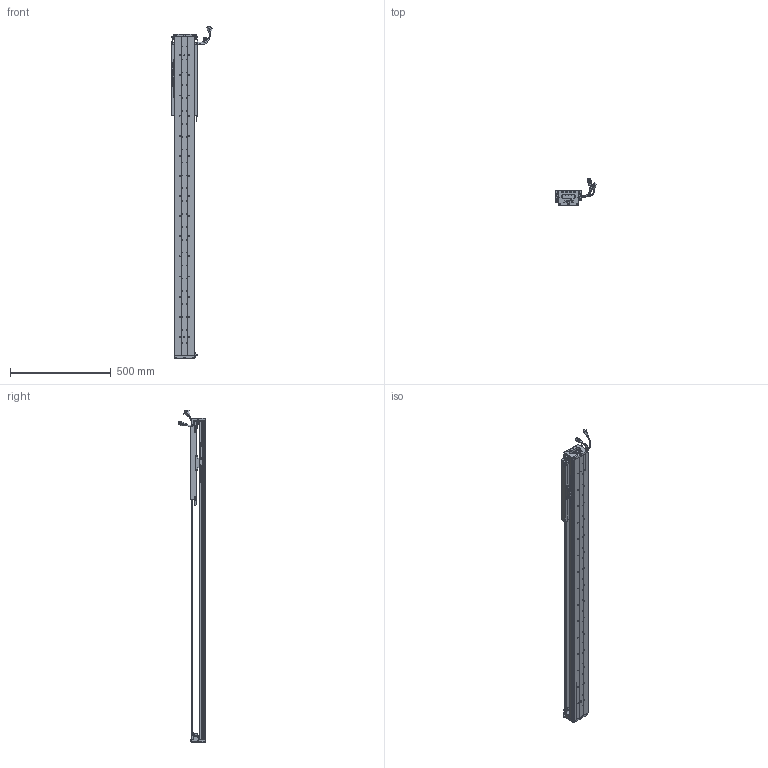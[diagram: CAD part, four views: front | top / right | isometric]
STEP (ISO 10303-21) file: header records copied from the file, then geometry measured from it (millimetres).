
FILE_DESCRIPTION (( 'STEP AP203' ), '1' );
FILE_NAME ('Z5-RY100D-1-L500-B-K.SLDASM_1150.step', '2021-05-17T03:33:11', ( '盈信电脑' ), ( '东莞市道滘镇水果街19号' ), 'SwSTEP 2.0', 'SolidWorks 2016', '' );
FILE_SCHEMA (( 'CONFIG_CONTROL_DESIGN' ));
Length unit declared in the file: millimetre
Products named in the file (36): Z-100詩湍傷裔啣; Z5-RY100D-500-倰第菁釱_1150; SCREW-M1.6-1; HOLDER0; COVER; SCREW-M1.6-2; Z-RY100D詩湍奻揤裔; COVER-Part-1; Z-RY100D覜茼んえ; Z-RY100D詩湍狟揤裔; HARNESS; 100-Z-臏賑輸盄裔(21遴); 080黍杅芛假蚾釱21遴; Z5-RY100D-1-L500-B-K.SLDASM_1150; SCREW-M1.7-1; Z5-RY100铝滑块（21款）; SEAL; LABEL; SCALE-Part-2; SEAL-Part-1; Z5-RY100-L500詩湍90mm遵_1150; 140蚥薯蝶輸; SCREW-M1.7; SCREW-M1.6-3; PBU_SHEET; LABEL-Part-1; HARNESS-Part-1; 覜茼ん672; SCREW-M1.6; HARNESS-Part-2; SCALE; PSLH080_PSLF2; SCALE-Part-1; 榋妏寠巭燃_暯_M2_2; SHIELDPLATE; 140雄赽晤鎢ん堤盄
Assembly tree (43 placements, depth 4):
  Z5-RY100D-1-L500-B-K.SLDASM_1150
    Z5-RY100D-500-倰第菁釱_1150
    Z5-RY100铝滑块（21款）
    PSLH080_PSLF2
      SCALE
        SCALE-Part-1
        SCALE-Part-2
      HARNESS
        HARNESS-Part-1
        HARNESS-Part-2
      LABEL
        LABEL-Part-1
      COVER
        COVER-Part-1
      SEAL
        SEAL-Part-1
      榋妏寠巭燃_暯_M2_2
      SHIELDPLATE
      SCREW-M1.7
      SCREW-M1.7-1
      PBU_SHEET
      SCREW-M1.6
      SCREW-M1.6-1
      SCREW-M1.6-2
      SCREW-M1.6-3
      HOLDER0
    080黍杅芛假蚾釱21遴
    Z-100詩湍傷裔啣  x2
    140蚥薯蝶輸  x2
    覜茼ん672  x3
    Z-RY100D覜茼んえ  x3
    100-Z-臏賑輸盄裔(21遴)
    140雄赽晤鎢ん堤盄
    Z5-RY100-L500詩湍90mm遵_1150
    Z-RY100D詩湍狟揤裔  x2
    Z-RY100D詩湍奻揤裔  x2
Bounding box: 205.83 x 136.11 x 1650.43 mm (x, y, z)
Volume: 3470129.2 mm3; surface area: 1310419.5 mm2
Topology: 38 solids, 38 shells, 2727 faces, 7255 edges, 4604 vertices
Faces by surface type: cylinder 1238, plane 1141, cone 226, torus 69, bspline 53
Entity records: 75805 total; most frequent: CARTESIAN_POINT 15923, DIRECTION 12093, ORIENTED_EDGE 11390, EDGE_CURVE 5695, AXIS2_PLACEMENT_3D 4486, VERTEX_POINT 3672, LINE 3121, VECTOR 3121
